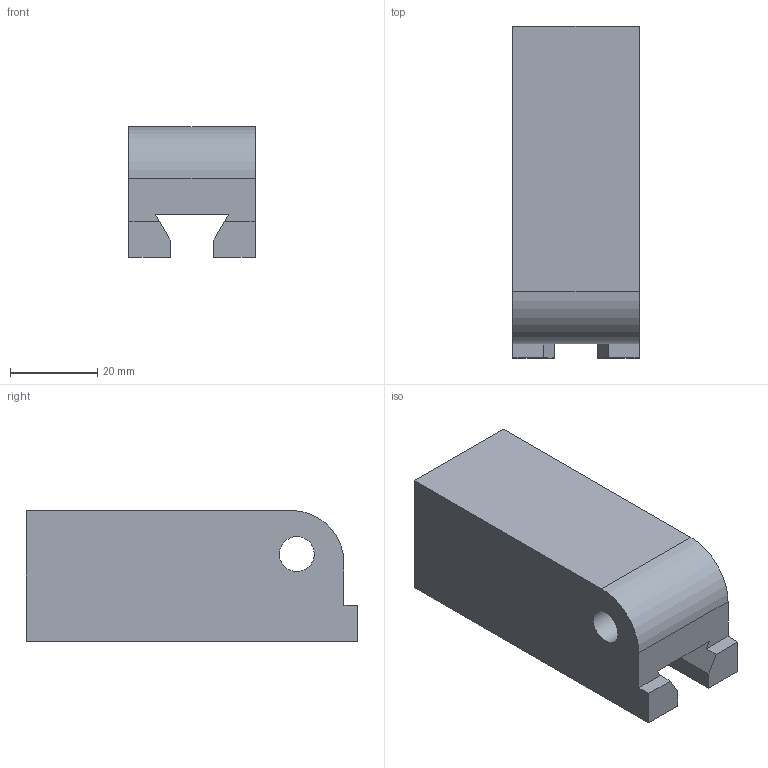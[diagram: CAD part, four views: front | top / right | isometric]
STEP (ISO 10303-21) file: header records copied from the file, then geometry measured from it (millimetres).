
FILE_DESCRIPTION( ( 'Unknown' ), '1' );
FILE_NAME( 'F:/navkite transat/construction/2016/3D ET ASSEMBLAGES/AMI/AMI 28.stp', 'Unknown', ( 'GMA' ), ( 'Unknown' ), 'XStep 1.0', 'Unknown', ' ' );
FILE_SCHEMA( ( 'automotive_design' ) );
Length unit declared in the file: millimetre
Products named in the file (1): 1
Bounding box: 28.9 x 76 x 30 mm (x, y, z)
Volume: 52441.5 mm3; surface area: 12897.8 mm2
Topology: 1 solids, 1 shells, 20 faces, 52 edges, 35 vertices
Faces by surface type: plane 17, cylinder 3
Full cylindrical faces by diameter (mm): 4 x1, 8 x1
Entity records: 771 total; most frequent: CARTESIAN_POINT 104, ORIENTED_EDGE 98, DIRECTION 97, EDGE_CURVE 49, LINE 43, VECTOR 43, VERTEX_POINT 34, AXIS2_PLACEMENT_3D 27
